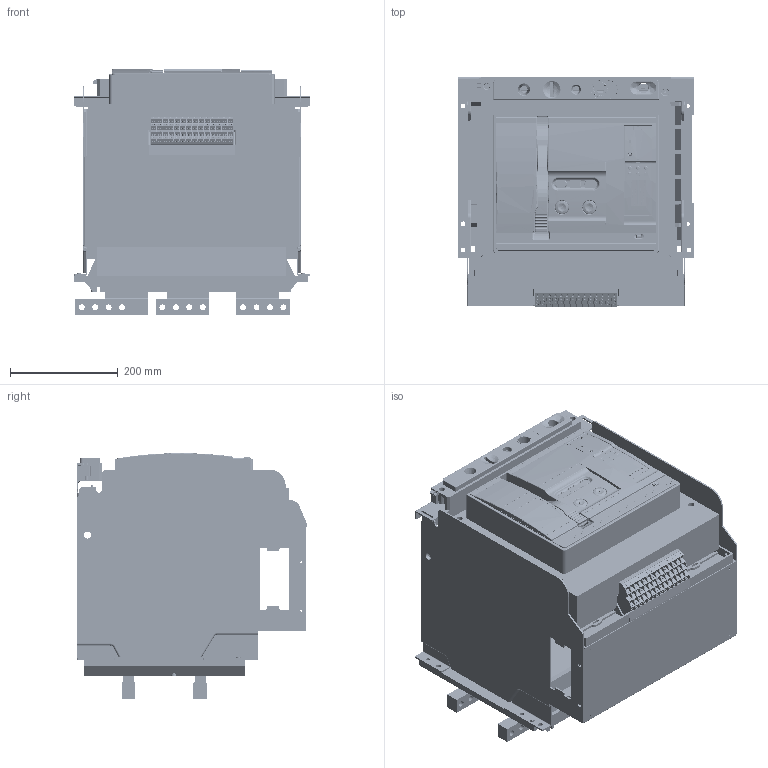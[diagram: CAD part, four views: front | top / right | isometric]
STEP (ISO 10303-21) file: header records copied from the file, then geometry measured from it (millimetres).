
FILE_DESCRIPTION(/* description */ (''),/* implementation_level */ '2;1');
FILE_NAME(/* name */ 'C:/Users/carlos.gonzalez/Documents/ADRIAN_TEMP_DRAWING/Ex9A40_3P_4000_DO_PB_Drawingç.step',/* time_stamp */ '2021-10-14T13:06:44+02:00',/* author */ (''),/* organization */ (''),/* preprocessor_version */ 'ST-DEVELOPER v18.1',/* originating_system */ 'Autodesk Translation Framework v10.10.0.1391',/* authorisation */ '');
FILE_SCHEMA (('AUTOMOTIVE_DESIGN { 1 0 10303 214 3 1 1 }'));
Products named in the file (58): Ex9A40_3P_4000_DO; Auxiliary terminals; 5ZTD-558-695-4000_ASM; 5ZTD-558-712_ASM; 5ZTD-558-712_ASM_1; 5ZTD-558-712_ASM_2; 5ZTD-558-712_ASM_3; 5ZTD-558-712_ASM_4; 5ZTD-558-712_ASM_5; 5ZTD-558-712_ASM_6; 5ZTD-558-712_ASM_7; 5ZTD-558-712_ASM_8; 5ZTD-558-712_ASM_9; 5ZTD-558-712_ASM_10; 5ZTD-558-712_ASM_11; 5ZTD-558-712_ASM_12; 5ZTD-558-712_ASM_13; 8ZTD-024-837; 8ZTD-557-514; 8ZTD-557-515; 8ZTD-557-516; 8ZTD-557-517; M3_GB6170; M3X8_GB818; 8ZTD-141-185; 8ZTD-141-184; 8ZTD-860-699; 8ZTD-064-136; Cover; 8253A0101108-1; 8253A0101010; 5300A1526114_ASM; 8300A0101127_34; 8235A0101009_2; 8253A0101002_7; 8320A0101121-0814_3; 8860A0724001_4; 8ZTD_282_1203_AF1_6; 8ZTD_282_1203_AF2_6; 8253A0101107-1_5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
Assembly tree (262 placements, depth 5):
  Ex9A40_3P_4000_DO
    Auxiliary terminals
      5ZTD-558-695-4000_ASM
        5ZTD-558-712_ASM
          8ZTD-024-837
          8ZTD-557-514
          8ZTD-557-515
          8ZTD-557-516
          8ZTD-557-517
          M3_GB6170  x4
          M3X8_GB818  x4
          8ZTD-141-185
          8ZTD-141-184
        5ZTD-558-712_ASM_1
          8ZTD-024-837
          8ZTD-557-514
          8ZTD-557-515
          8ZTD-557-516
          8ZTD-557-517
          M3_GB6170  x4
          M3X8_GB818  x4
          8ZTD-141-185
          8ZTD-141-184
        5ZTD-558-712_ASM_2
          8ZTD-024-837
          8ZTD-557-514
          8ZTD-557-515
          8ZTD-557-516
          8ZTD-557-517
          M3_GB6170  x4
          M3X8_GB818  x4
          8ZTD-141-185
          8ZTD-141-184
        5ZTD-558-712_ASM_3
          8ZTD-024-837
          8ZTD-557-514
          8ZTD-557-515
          8ZTD-557-516
          8ZTD-557-517
          M3_GB6170  x4
          M3X8_GB818  x4
          8ZTD-141-185
          8ZTD-141-184
        5ZTD-558-712_ASM_4
          8ZTD-024-837
          8ZTD-557-514
          8ZTD-557-515
          8ZTD-557-516
          8ZTD-557-517
          M3_GB6170  x4
          M3X8_GB818  x4
          8ZTD-141-185
          8ZTD-141-184
        5ZTD-558-712_ASM_5
          8ZTD-024-837
          8ZTD-557-514
          8ZTD-557-515
          8ZTD-557-516
          8ZTD-557-517
          M3_GB6170  x4
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Bounding box: 439 x 428.53 x 456.99 mm (x, y, z)
Volume: 14013479.9 mm3; surface area: 3516645.9 mm2
Topology: 241 solids, 307 shells, 19545 faces, 52052 edges, 33840 vertices
Faces by surface type: plane 14750, cylinder 2577, bspline 875, cone 831, torus 393, sphere 119
Full cylindrical faces by diameter (mm): 2 x539, 2.1 x2, 2.246 x56, 2.5 x3, 2.6 x2, 3 x86, 3.2 x6, 3.3 x1, 3.5 x45, 4 x85, 4.3 x1, 4.4 x2, 4.5 x3, 5 x17, 5.008 x1, 5.5 x1, 6 x5, 6.1 x1, 6.5 x5, 7 x7, 8 x2, 8.3 x2, 8.5 x24, 9 x12, 10 x24, 11 x27, 12 x4, 12.5 x1, 13 x5, 14 x3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
Entity records: 246128 total; most frequent: CARTESIAN_POINT 95457, ORIENTED_EDGE 31566, DIRECTION 29645, EDGE_CURVE 15827, LINE 11491, VECTOR 11491, VERTEX_POINT 10258, AXIS2_PLACEMENT_3D 9077
